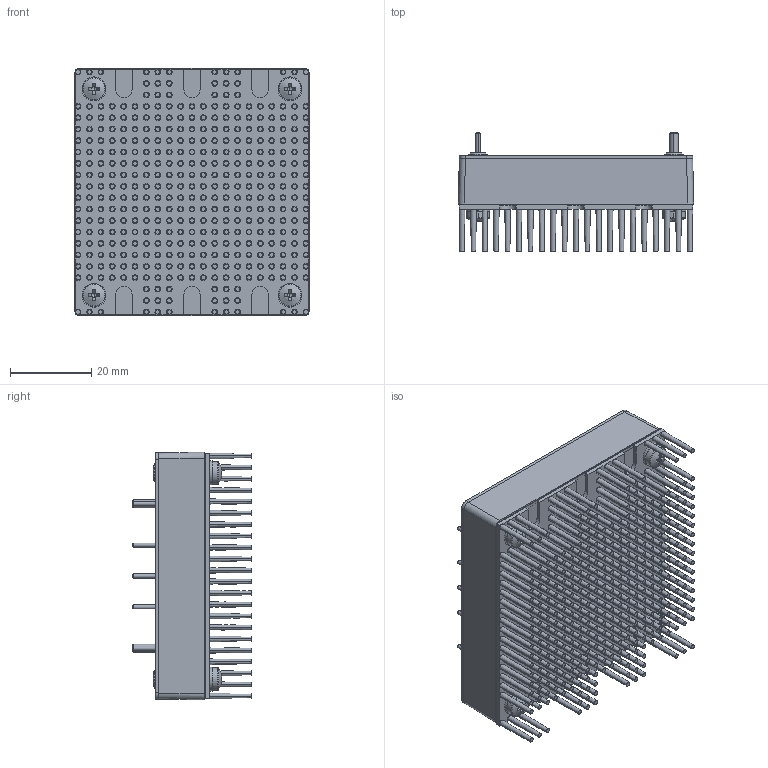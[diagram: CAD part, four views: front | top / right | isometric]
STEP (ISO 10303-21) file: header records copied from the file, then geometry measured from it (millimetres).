
FILE_DESCRIPTION (( 'STEP AP214' ), '1' );
FILE_NAME ('tep-with-hs.STEP', '2016-02-15T14:25:38', ( '' ), ( '' ), 'SwSTEP 2.0', 'SolidWorks 2013', '' );
FILE_SCHEMA (( 'AUTOMOTIVE_DESIGN' ));
Length unit declared in the file: millimetre
Products named in the file (5): tep-hs-screw; tp-heatsink; tep-thermal -pad; tep-ohne-hs; tep-with-hs
Assembly tree (7 placements, depth 2):
  tep-with-hs
    tep-ohne-hs
    tep-thermal -pad
    tp-heatsink
    tep-hs-screw  x4
Bounding box: 57.9 x 29.32 x 61 mm (x, y, z)
Volume: 51728.6 mm3; surface area: 40682.1 mm2
Topology: 11 solids, 11 shells, 1509 faces, 3216 edges, 2072 vertices
Faces by surface type: cone 848, plane 551, cylinder 90, bspline 20
Entity records: 39481 total; most frequent: DIRECTION 7313, CARTESIAN_POINT 6433, ORIENTED_EDGE 5744, AXIS2_PLACEMENT_3D 3120, EDGE_CURVE 2872, VERTEX_POINT 1868, CIRCLE 1756, EDGE_LOOP 1728
